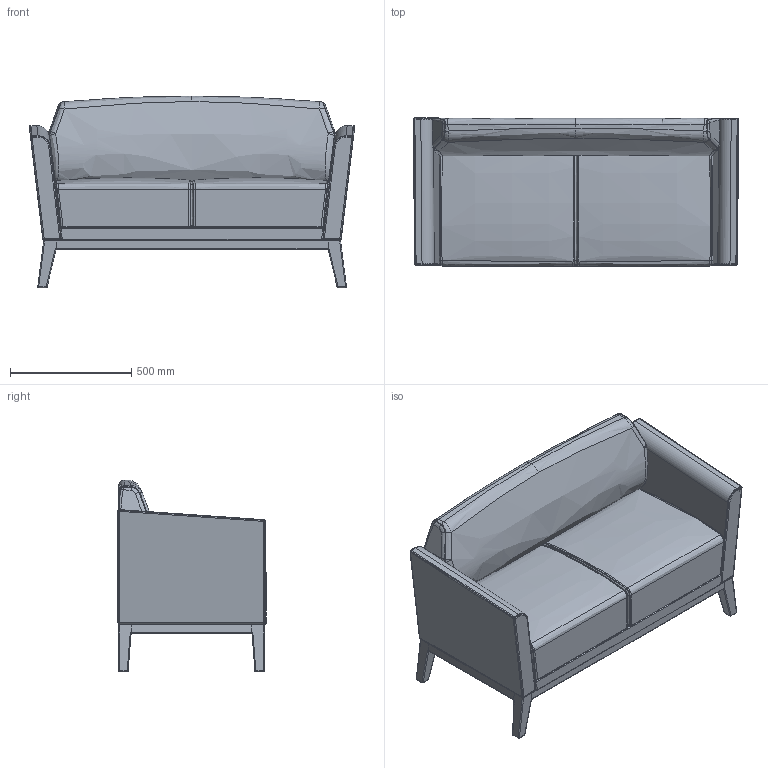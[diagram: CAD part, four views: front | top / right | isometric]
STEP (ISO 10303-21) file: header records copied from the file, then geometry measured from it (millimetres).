
FILE_DESCRIPTION(/* description */ (''),/* implementation_level */ '2;1');
FILE_NAME(/* name */ '2312_Wood.step',/* time_stamp */ '2026-07-28T15:19:55-07:00',/* author */ (''),/* organization */ (''),/* preprocessor_version */ 'ST-DEVELOPER v20.1',/* originating_system */ 'Autodesk Translation Framework v15.8.0.0',/* authorisation */ '');
FILE_SCHEMA (('AUTOMOTIVE_DESIGN { 1 0 10303 214 3 1 1 }'));
Length unit declared in the file: inch
Products named in the file (1): BREEZE Lounge High Back_Allmodels
Bounding box: 1340.86 x 610.26 x 789.77 mm (x, y, z)
Volume: 265389887.8 mm3; surface area: 8161676.5 mm2
Topology: 23 solids, 23 shells, 719 faces, 1573 edges, 900 vertices
Faces by surface type: bspline 287, cylinder 193, plane 149, sphere 47, torus 43
Full cylindrical faces by diameter (mm): 12.7 x16
Entity records: 33817 total; most frequent: CARTESIAN_POINT 19658, ORIENTED_EDGE 3122, DIRECTION 2514, EDGE_CURVE 1561, AXIS2_PLACEMENT_3D 1040, VERTEX_POINT 900, EDGE_LOOP 735, FACE_OUTER_BOUND 719
